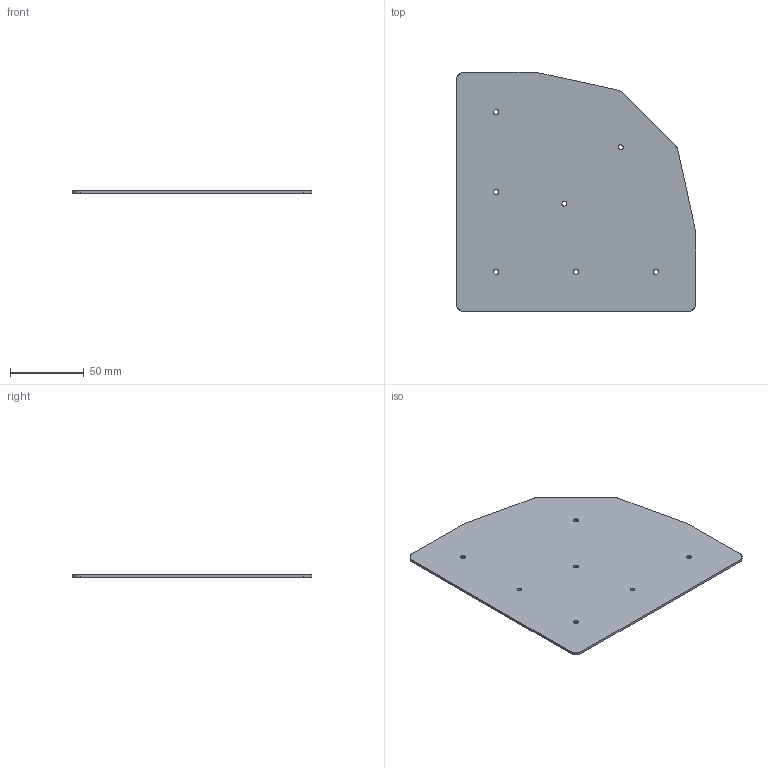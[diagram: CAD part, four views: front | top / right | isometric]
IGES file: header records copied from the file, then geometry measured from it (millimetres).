
Start section: SolidWorks IGES file using analytic representation for surfaces
Global section: file name: C:\Working\Gusset Convert\DRP-002-0004-02.igs; native system: SolidWorks 2010; preprocessor: SolidWorks 2010; author: mbush2; date: 100624.085815; units: inch
Bounding box: 161.93 x 161.93 x 1.59 mm (x, y, z)
Surface area: 48219.9 mm2 (no closed solid volume)
Topology: 0 solids, 0 shells, 30 faces, 410 edges, 410 vertices
Faces by surface type: revolution 21, bspline 9
